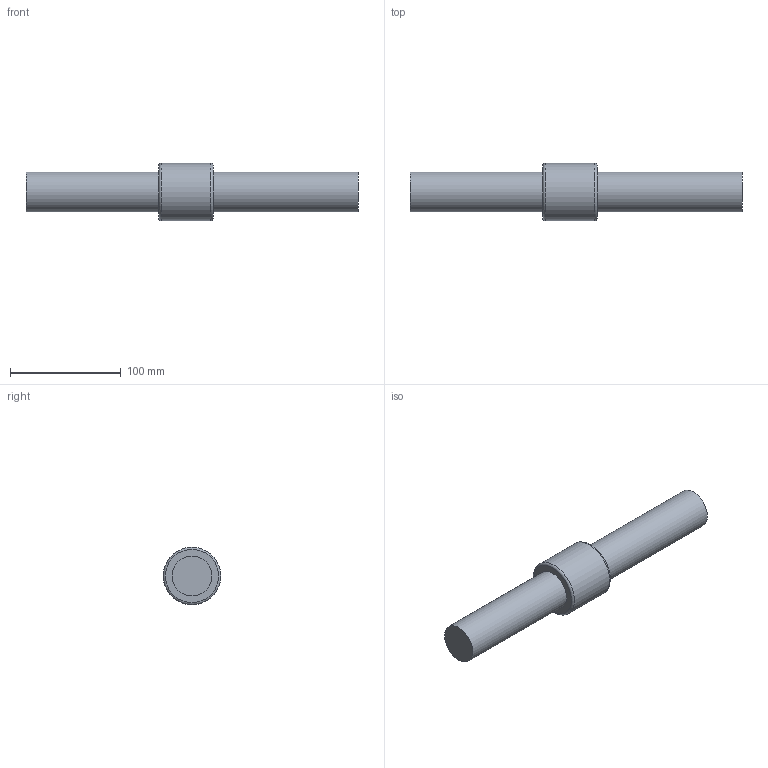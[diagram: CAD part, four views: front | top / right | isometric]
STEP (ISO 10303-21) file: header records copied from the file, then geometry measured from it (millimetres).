
FILE_DESCRIPTION((''),'2;1');
FILE_NAME('D:\製品 (図面)\カタログ用3D\ネジ関連\STEP形式\TMS\TMS36.stp','2010-06-02T15:33:57',('Tsuchiya'),(''),'Autodesk Inventor 10','Autodesk Inventor 10','');
FILE_SCHEMA(('AUTOMOTIVE_DESIGN { 1 0 10303 214 1 1 1 1 }'));
Length unit declared in the file: millimetre
Products named in the file (3): TMS36; TMS361; TMS362
Assembly tree (2 placements, depth 2):
  TMS36
    TMS361
    TMS362
Bounding box: 300 x 52 x 52 mm (x, y, z)
Volume: 359273.4 mm3; surface area: 51439.2 mm2
Topology: 2 solids, 2 shells, 9 faces, 13 edges, 8 vertices
Faces by surface type: plane 4, cylinder 3, torus 2
Full cylindrical faces by diameter (mm): 36 x2, 52 x1
Entity records: 254 total; most frequent: DIRECTION 44, CARTESIAN_POINT 30, AXIS2_PLACEMENT_3D 22, ORIENTED_EDGE 16, EDGE_LOOP 16, FACE_OUTER_BOUND 9, ADVANCED_FACE 9, VERTEX_POINT 8
